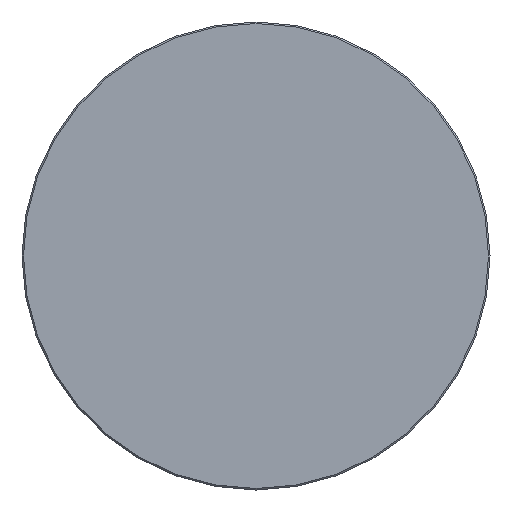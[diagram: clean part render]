
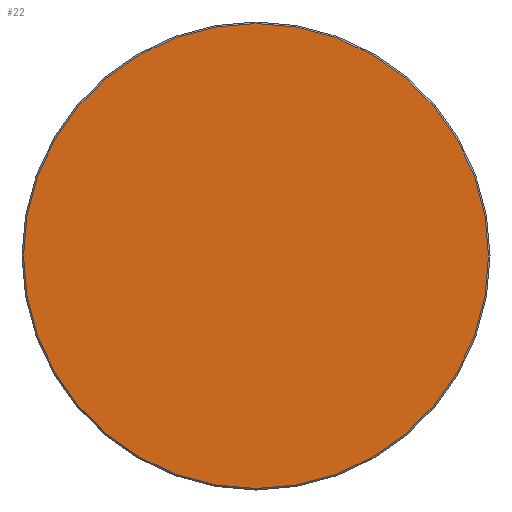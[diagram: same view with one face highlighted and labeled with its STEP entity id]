
A CAD part, left-side view. The second image highlights one B-rep face of the part: STEP entity #22.
In plain terms, the highlighted planar face has unit normal (-1, 0, 0).
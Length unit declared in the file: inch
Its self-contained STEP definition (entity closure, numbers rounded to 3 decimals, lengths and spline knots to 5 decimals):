
#22 = ADVANCED_FACE ( 'NONE', ( #94 ), #54, .T. ) ;
#34 = EDGE_CURVE ( 'NONE', #72, #372, #170, .T. ) ;
#54 = PLANE ( 'NONE',  #194 ) ;
#72 = VERTEX_POINT ( 'NONE', #198 ) ;
#94 = FACE_OUTER_BOUND ( 'NONE', #185, .T. ) ;
#123 = CARTESIAN_POINT ( 'NONE',  ( 0., 0., 0. ) ) ;
#129 = DIRECTION ( 'NONE',  ( 0., -1., 0. ) ) ;
#134 = ORIENTED_EDGE ( 'NONE', *, *, #381, .T. ) ;
#139 = DIRECTION ( 'NONE',  ( 0., -1., 0. ) ) ;
#170 = CIRCLE ( 'NONE', #286, 0.621 ) ;
#185 = EDGE_LOOP ( 'NONE', ( #204, #134 ) ) ;
#194 = AXIS2_PLACEMENT_3D ( 'NONE', #260, #258, #139 ) ;
#198 = CARTESIAN_POINT ( 'NONE',  ( 0., 0.621, 0. ) ) ;
#204 = ORIENTED_EDGE ( 'NONE', *, *, #34, .T. ) ;
#258 = DIRECTION ( 'NONE',  ( -1., 0., 0. ) ) ;
#260 = CARTESIAN_POINT ( 'NONE',  ( 0., 0., 0. ) ) ;
#266 = AXIS2_PLACEMENT_3D ( 'NONE', #341, #373, #129 ) ;
#286 = AXIS2_PLACEMENT_3D ( 'NONE', #123, #295, #355 ) ;
#295 = DIRECTION ( 'NONE',  ( -1., 0., 0. ) ) ;
#341 = CARTESIAN_POINT ( 'NONE',  ( 0., 0., 0. ) ) ;
#342 = CARTESIAN_POINT ( 'NONE',  ( 0., -0.621, 0. ) ) ;
#355 = DIRECTION ( 'NONE',  ( 0., -1., 0. ) ) ;
#360 = CIRCLE ( 'NONE', #266, 0.621 ) ;
#372 = VERTEX_POINT ( 'NONE', #342 ) ;
#373 = DIRECTION ( 'NONE',  ( -1., 0., 0. ) ) ;
#381 = EDGE_CURVE ( 'NONE', #372, #72, #360, .T. ) ;
